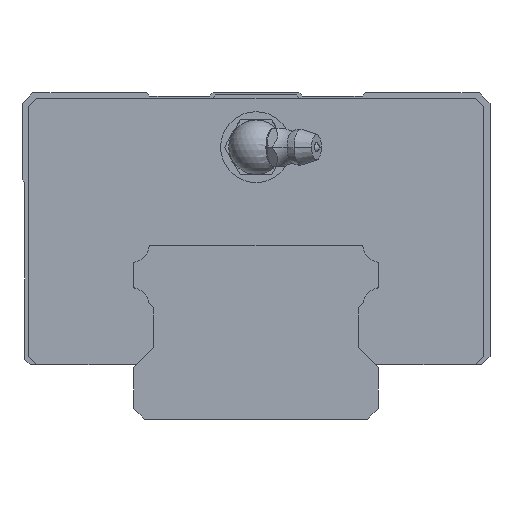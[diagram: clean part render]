
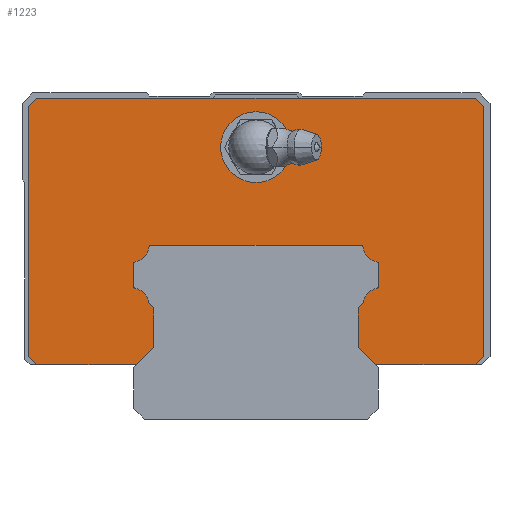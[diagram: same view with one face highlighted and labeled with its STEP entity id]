
A CAD part, front view. The second image highlights one B-rep face of the part: STEP entity #1223.
In plain terms, the highlighted planar face has unit normal (0, -1, 0).
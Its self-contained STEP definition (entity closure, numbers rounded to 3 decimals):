
#334=FACE_BOUND('',#1536,.T.);
#335=FACE_BOUND('',#1537,.T.);
#485=PLANE('',#3481);
#742=LINE('',#5055,#998);
#743=LINE('',#5058,#999);
#744=LINE('',#5060,#1000);
#745=LINE('',#5062,#1001);
#746=LINE('',#5064,#1002);
#747=LINE('',#5066,#1003);
#748=LINE('',#5068,#1004);
#749=LINE('',#5070,#1005);
#750=LINE('',#5072,#1006);
#751=LINE('',#5074,#1007);
#752=LINE('',#5076,#1008);
#753=LINE('',#5078,#1009);
#754=LINE('',#5080,#1010);
#755=LINE('',#5082,#1011);
#756=LINE('',#5088,#1012);
#757=LINE('',#5096,#1013);
#758=LINE('',#5104,#1014);
#759=LINE('',#5110,#1015);
#998=VECTOR('',#3931,1.);
#999=VECTOR('',#3932,1.);
#1000=VECTOR('',#3933,1.);
#1001=VECTOR('',#3934,1.);
#1002=VECTOR('',#3935,1.);
#1003=VECTOR('',#3936,1.);
#1004=VECTOR('',#3937,1.);
#1005=VECTOR('',#3938,1.);
#1006=VECTOR('',#3939,1.);
#1007=VECTOR('',#3940,1.);
#1008=VECTOR('',#3941,1.);
#1009=VECTOR('',#3942,1.);
#1010=VECTOR('',#3943,1.);
#1011=VECTOR('',#3944,1.);
#1012=VECTOR('',#3949,1.);
#1013=VECTOR('',#3956,1.);
#1014=VECTOR('',#3963,1.);
#1015=VECTOR('',#3968,1.);
#1223=ADVANCED_FACE('',(#334,#335),#485,.T.);
#1536=EDGE_LOOP('',(#1964));
#1537=EDGE_LOOP('',(#1965,#1966,#1967,#1968,#1969,#1970,#1971,#1972,#1973,
#1974,#1975,#1976,#1977,#1978,#1979,#1980,#1981,#1982,#1983,#1984,#1985,
#1986,#1987,#1988,#1989,#1990,#1991,#1992));
#1964=ORIENTED_EDGE('',*,*,#2986,.F.);
#1965=ORIENTED_EDGE('',*,*,#2987,.T.);
#1966=ORIENTED_EDGE('',*,*,#2988,.T.);
#1967=ORIENTED_EDGE('',*,*,#2989,.T.);
#1968=ORIENTED_EDGE('',*,*,#2990,.T.);
#1969=ORIENTED_EDGE('',*,*,#2991,.T.);
#1970=ORIENTED_EDGE('',*,*,#2992,.T.);
#1971=ORIENTED_EDGE('',*,*,#2993,.T.);
#1972=ORIENTED_EDGE('',*,*,#2994,.T.);
#1973=ORIENTED_EDGE('',*,*,#2995,.T.);
#1974=ORIENTED_EDGE('',*,*,#2996,.T.);
#1975=ORIENTED_EDGE('',*,*,#2997,.T.);
#1976=ORIENTED_EDGE('',*,*,#2998,.T.);
#1977=ORIENTED_EDGE('',*,*,#2999,.T.);
#1978=ORIENTED_EDGE('',*,*,#3000,.T.);
#1979=ORIENTED_EDGE('',*,*,#3001,.T.);
#1980=ORIENTED_EDGE('',*,*,#3002,.T.);
#1981=ORIENTED_EDGE('',*,*,#3003,.T.);
#1982=ORIENTED_EDGE('',*,*,#3004,.T.);
#1983=ORIENTED_EDGE('',*,*,#3005,.T.);
#1984=ORIENTED_EDGE('',*,*,#3006,.T.);
#1985=ORIENTED_EDGE('',*,*,#3007,.T.);
#1986=ORIENTED_EDGE('',*,*,#3008,.T.);
#1987=ORIENTED_EDGE('',*,*,#3009,.T.);
#1988=ORIENTED_EDGE('',*,*,#3010,.T.);
#1989=ORIENTED_EDGE('',*,*,#3011,.T.);
#1990=ORIENTED_EDGE('',*,*,#3012,.T.);
#1991=ORIENTED_EDGE('',*,*,#3013,.T.);
#1992=ORIENTED_EDGE('',*,*,#3014,.T.);
#2657=VERTEX_POINT('',#5054);
#2658=VERTEX_POINT('',#5056);
#2659=VERTEX_POINT('',#5057);
#2660=VERTEX_POINT('',#5059);
#2661=VERTEX_POINT('',#5061);
#2662=VERTEX_POINT('',#5063);
#2663=VERTEX_POINT('',#5065);
#2664=VERTEX_POINT('',#5067);
#2665=VERTEX_POINT('',#5069);
#2666=VERTEX_POINT('',#5071);
#2667=VERTEX_POINT('',#5073);
#2668=VERTEX_POINT('',#5075);
#2669=VERTEX_POINT('',#5077);
#2670=VERTEX_POINT('',#5079);
#2671=VERTEX_POINT('',#5081);
#2672=VERTEX_POINT('',#5083);
#2673=VERTEX_POINT('',#5085);
#2674=VERTEX_POINT('',#5087);
#2675=VERTEX_POINT('',#5089);
#2676=VERTEX_POINT('',#5091);
#2677=VERTEX_POINT('',#5093);
#2678=VERTEX_POINT('',#5095);
#2679=VERTEX_POINT('',#5097);
#2680=VERTEX_POINT('',#5099);
#2681=VERTEX_POINT('',#5101);
#2682=VERTEX_POINT('',#5103);
#2683=VERTEX_POINT('',#5105);
#2684=VERTEX_POINT('',#5107);
#2685=VERTEX_POINT('',#5109);
#2986=EDGE_CURVE('',#2657,#2657,#3299,.T.);
#2987=EDGE_CURVE('',#2658,#2659,#742,.T.);
#2988=EDGE_CURVE('',#2659,#2660,#743,.T.);
#2989=EDGE_CURVE('',#2660,#2661,#744,.T.);
#2990=EDGE_CURVE('',#2661,#2662,#745,.T.);
#2991=EDGE_CURVE('',#2662,#2663,#746,.T.);
#2992=EDGE_CURVE('',#2663,#2664,#747,.T.);
#2993=EDGE_CURVE('',#2664,#2665,#748,.T.);
#2994=EDGE_CURVE('',#2665,#2666,#749,.T.);
#2995=EDGE_CURVE('',#2666,#2667,#750,.T.);
#2996=EDGE_CURVE('',#2667,#2668,#751,.T.);
#2997=EDGE_CURVE('',#2668,#2669,#752,.T.);
#2998=EDGE_CURVE('',#2669,#2670,#753,.T.);
#2999=EDGE_CURVE('',#2670,#2671,#754,.T.);
#3000=EDGE_CURVE('',#2671,#2672,#755,.T.);
#3001=EDGE_CURVE('',#2672,#2673,#3300,.T.);
#3002=EDGE_CURVE('',#2673,#2674,#3301,.T.);
#3003=EDGE_CURVE('',#2674,#2675,#756,.T.);
#3004=EDGE_CURVE('',#2675,#2676,#3302,.T.);
#3005=EDGE_CURVE('',#2676,#2677,#3303,.T.);
#3006=EDGE_CURVE('',#2677,#2678,#3304,.T.);
#3007=EDGE_CURVE('',#2678,#2679,#757,.T.);
#3008=EDGE_CURVE('',#2679,#2680,#3305,.T.);
#3009=EDGE_CURVE('',#2680,#2681,#3306,.T.);
#3010=EDGE_CURVE('',#2681,#2682,#3307,.T.);
#3011=EDGE_CURVE('',#2682,#2683,#758,.T.);
#3012=EDGE_CURVE('',#2683,#2684,#3308,.T.);
#3013=EDGE_CURVE('',#2684,#2685,#3309,.T.);
#3014=EDGE_CURVE('',#2685,#2658,#759,.T.);
#3299=CIRCLE('',#3470,6.5);
#3300=CIRCLE('',#3471,3.2);
#3301=CIRCLE('',#3472,0.5);
#3302=CIRCLE('',#3473,0.5);
#3303=CIRCLE('',#3474,3.2);
#3304=CIRCLE('',#3475,0.5);
#3305=CIRCLE('',#3476,0.5);
#3306=CIRCLE('',#3477,3.2);
#3307=CIRCLE('',#3478,0.5);
#3308=CIRCLE('',#3479,0.5);
#3309=CIRCLE('',#3480,3.2);
#3470=AXIS2_PLACEMENT_3D('',#5053,#3929,#3930);
#3471=AXIS2_PLACEMENT_3D('',#5084,#3945,#3946);
#3472=AXIS2_PLACEMENT_3D('',#5086,#3947,#3948);
#3473=AXIS2_PLACEMENT_3D('',#5090,#3950,#3951);
#3474=AXIS2_PLACEMENT_3D('',#5092,#3952,#3953);
#3475=AXIS2_PLACEMENT_3D('',#5094,#3954,#3955);
#3476=AXIS2_PLACEMENT_3D('',#5098,#3957,#3958);
#3477=AXIS2_PLACEMENT_3D('',#5100,#3959,#3960);
#3478=AXIS2_PLACEMENT_3D('',#5102,#3961,#3962);
#3479=AXIS2_PLACEMENT_3D('',#5106,#3964,#3965);
#3480=AXIS2_PLACEMENT_3D('',#5108,#3966,#3967);
#3481=AXIS2_PLACEMENT_3D('',#5111,#3969,#3970);
#3929=DIRECTION('',(0.,-1.,0.));
#3930=DIRECTION('',(1.,0.,0.));
#3931=DIRECTION('',(0.,0.,-1.));
#3932=DIRECTION('',(0.707,0.,-0.707));
#3933=DIRECTION('',(1.,0.,0.));
#3934=DIRECTION('',(0.707,0.,0.707));
#3935=DIRECTION('',(0.,0.,1.));
#3936=DIRECTION('',(-0.707,0.,0.707));
#3937=DIRECTION('',(-1.,0.,0.));
#3938=DIRECTION('',(-0.707,0.,-0.707));
#3939=DIRECTION('',(0.,0.,-1.));
#3940=DIRECTION('',(0.707,0.,-0.707));
#3941=DIRECTION('',(1.,0.,0.));
#3942=DIRECTION('',(0.707,0.,0.707));
#3943=DIRECTION('',(0.,0.,1.));
#3944=DIRECTION('',(-0.707,0.,0.707));
#3945=DIRECTION('',(0.,-1.,0.));
#3946=DIRECTION('',(0.,0.,-1.));
#3947=DIRECTION('',(0.,1.,0.));
#3948=DIRECTION('',(0.,0.,-1.));
#3949=DIRECTION('',(0.,0.,1.));
#3950=DIRECTION('',(0.,1.,0.));
#3951=DIRECTION('',(0.,0.,-1.));
#3952=DIRECTION('',(0.,-1.,0.));
#3953=DIRECTION('',(0.,0.,-1.));
#3954=DIRECTION('',(0.,1.,0.));
#3955=DIRECTION('',(0.,0.,-1.));
#3956=DIRECTION('',(1.,0.,0.));
#3957=DIRECTION('',(0.,1.,0.));
#3958=DIRECTION('',(0.,0.,-1.));
#3959=DIRECTION('',(0.,-1.,0.));
#3960=DIRECTION('',(0.,0.,-1.));
#3961=DIRECTION('',(0.,1.,0.));
#3962=DIRECTION('',(0.,0.,-1.));
#3963=DIRECTION('',(0.,0.,-1.));
#3964=DIRECTION('',(0.,1.,0.));
#3965=DIRECTION('',(0.,0.,-1.));
#3966=DIRECTION('',(0.,-1.,0.));
#3967=DIRECTION('',(0.,0.,-1.));
#3968=DIRECTION('',(-0.707,0.,-0.707));
#3969=DIRECTION('',(0.,-1.,0.));
#3970=DIRECTION('',(0.,0.,-1.));
#5053=CARTESIAN_POINT('',(0.,-34.25,50.));
#5054=CARTESIAN_POINT('',(6.5,-34.25,50.));
#5055=CARTESIAN_POINT('',(18.75,-34.25,99.3));
#5056=CARTESIAN_POINT('',(18.75,-34.25,20.45));
#5057=CARTESIAN_POINT('',(18.75,-34.25,13.25));
#5058=CARTESIAN_POINT('',(-33.65,-34.25,65.65));
#5059=CARTESIAN_POINT('',(22.,-34.25,10.));
#5060=CARTESIAN_POINT('',(-40.3,-34.25,10.));
#5061=CARTESIAN_POINT('',(40.3,-34.25,10.));
#5062=CARTESIAN_POINT('',(40.3,-34.25,10.));
#5063=CARTESIAN_POINT('',(41.8,-34.25,11.5));
#5064=CARTESIAN_POINT('',(41.8,-34.25,11.5));
#5065=CARTESIAN_POINT('',(41.8,-34.25,57.5));
#5066=CARTESIAN_POINT('',(41.8,-34.25,57.5));
#5067=CARTESIAN_POINT('',(40.3,-34.25,59.));
#5068=CARTESIAN_POINT('',(40.3,-34.25,59.));
#5069=CARTESIAN_POINT('',(-40.3,-34.25,59.));
#5070=CARTESIAN_POINT('',(-40.3,-34.25,59.));
#5071=CARTESIAN_POINT('',(-41.8,-34.25,57.5));
#5072=CARTESIAN_POINT('',(-41.8,-34.25,57.5));
#5073=CARTESIAN_POINT('',(-41.8,-34.25,11.5));
#5074=CARTESIAN_POINT('',(-41.8,-34.25,11.5));
#5075=CARTESIAN_POINT('',(-40.3,-34.25,10.));
#5076=CARTESIAN_POINT('',(-40.3,-34.25,10.));
#5077=CARTESIAN_POINT('',(-22.,-34.25,10.));
#5078=CARTESIAN_POINT('',(33.65,-34.25,65.65));
#5079=CARTESIAN_POINT('',(-18.75,-34.25,13.25));
#5080=CARTESIAN_POINT('',(-18.75,-34.25,99.3));
#5081=CARTESIAN_POINT('',(-18.75,-34.25,20.45));
#5082=CARTESIAN_POINT('',(-48.8,-34.25,50.5));
#5083=CARTESIAN_POINT('',(-19.674,-34.25,21.374));
#5084=CARTESIAN_POINT('',(-22.84,-34.25,20.91));
#5085=CARTESIAN_POINT('',(-22.113,-34.25,24.027));
#5086=CARTESIAN_POINT('',(-22.,-34.25,24.514));
#5087=CARTESIAN_POINT('',(-22.5,-34.25,24.514));
#5088=CARTESIAN_POINT('',(-22.5,-34.25,99.3));
#5089=CARTESIAN_POINT('',(-22.5,-34.25,28.486));
#5090=CARTESIAN_POINT('',(-22.,-34.25,28.486));
#5091=CARTESIAN_POINT('',(-22.113,-34.25,28.973));
#5092=CARTESIAN_POINT('',(-22.84,-34.25,32.09));
#5093=CARTESIAN_POINT('',(-19.681,-34.25,31.58));
#5094=CARTESIAN_POINT('',(-19.187,-34.25,31.5));
#5095=CARTESIAN_POINT('',(-19.187,-34.25,32.));
#5096=CARTESIAN_POINT('',(0.,-34.25,32.));
#5097=CARTESIAN_POINT('',(19.187,-34.25,32.));
#5098=CARTESIAN_POINT('',(19.187,-34.25,31.5));
#5099=CARTESIAN_POINT('',(19.681,-34.25,31.58));
#5100=CARTESIAN_POINT('',(22.84,-34.25,32.09));
#5101=CARTESIAN_POINT('',(22.113,-34.25,28.973));
#5102=CARTESIAN_POINT('',(22.,-34.25,28.486));
#5103=CARTESIAN_POINT('',(22.5,-34.25,28.486));
#5104=CARTESIAN_POINT('',(22.5,-34.25,99.3));
#5105=CARTESIAN_POINT('',(22.5,-34.25,24.514));
#5106=CARTESIAN_POINT('',(22.,-34.25,24.514));
#5107=CARTESIAN_POINT('',(22.113,-34.25,24.027));
#5108=CARTESIAN_POINT('',(22.84,-34.25,20.91));
#5109=CARTESIAN_POINT('',(19.674,-34.25,21.374));
#5110=CARTESIAN_POINT('',(48.8,-34.25,50.5));
#5111=CARTESIAN_POINT('',(0.,-34.25,99.3));
